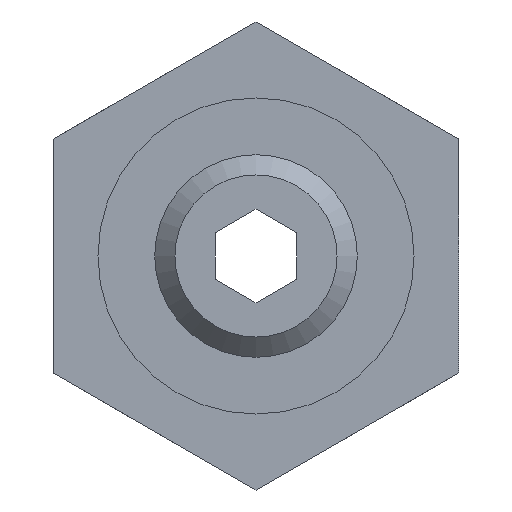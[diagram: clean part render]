
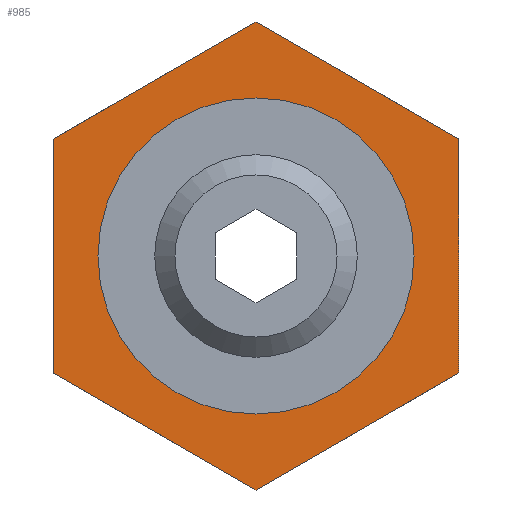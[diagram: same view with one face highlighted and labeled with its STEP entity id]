
A CAD part, front view. The second image highlights one B-rep face of the part: STEP entity #985.
In plain terms, the highlighted planar face has unit normal (0, -1, 0).
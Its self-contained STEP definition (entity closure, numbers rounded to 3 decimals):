
#369=CARTESIAN_POINT('',(-5.,-15.0,-2.887));
#370=VERTEX_POINT('',#369);
#371=CARTESIAN_POINT('',(0.,-15.0,-5.774));
#372=VERTEX_POINT('',#371);
#373=CARTESIAN_POINT('',(-5.,-15.0,-2.887));
#374=DIRECTION('',(0.866,0.0,-0.5));
#375=VECTOR('',#374,5.774);
#376=LINE('',#373,#375);
#377=EDGE_CURVE('',#370,#372,#376,.T.);
#431=CARTESIAN_POINT('',(-5.0,-15.0,2.887));
#432=VERTEX_POINT('',#431);
#433=CARTESIAN_POINT('',(-5.,-15.0,2.887));
#434=DIRECTION('',(0.0,0.0,-1.0));
#435=VECTOR('',#434,5.774);
#436=LINE('',#433,#435);
#437=EDGE_CURVE('',#432,#370,#436,.T.);
#484=CARTESIAN_POINT('',(5.0,-15.0,-2.887));
#485=VERTEX_POINT('',#484);
#486=CARTESIAN_POINT('',(0.0,-15.0,-5.774));
#487=DIRECTION('',(0.866,0.0,0.5));
#488=VECTOR('',#487,5.774);
#489=LINE('',#486,#488);
#490=EDGE_CURVE('',#372,#485,#489,.T.);
#537=CARTESIAN_POINT('',(5.0,-15.0,2.887));
#538=VERTEX_POINT('',#537);
#539=CARTESIAN_POINT('',(5.0,-15.0,-2.887));
#540=DIRECTION('',(0.0,0.0,1.0));
#541=VECTOR('',#540,5.774);
#542=LINE('',#539,#541);
#543=EDGE_CURVE('',#485,#538,#542,.T.);
#590=CARTESIAN_POINT('',(0.,-15.0,5.774));
#591=VERTEX_POINT('',#590);
#592=CARTESIAN_POINT('',(0.,-15.0,5.774));
#593=DIRECTION('',(-0.866,0.0,-0.5));
#594=VECTOR('',#593,5.774);
#595=LINE('',#592,#594);
#596=EDGE_CURVE('',#591,#432,#595,.T.);
#643=CARTESIAN_POINT('',(5.0,-15.0,2.887));
#644=DIRECTION('',(-0.866,0.0,0.5));
#645=VECTOR('',#644,5.774);
#646=LINE('',#643,#645);
#647=EDGE_CURVE('',#538,#591,#646,.T.);
#961=CARTESIAN_POINT('',(5.413,-15.0,0.0));
#962=DIRECTION('',(0.0,-1.0,0.0));
#963=DIRECTION('',(0.0,0.0,-1.0));
#964=AXIS2_PLACEMENT_3D('',#961,#962,#963);
#965=PLANE('',#964);
#966=ORIENTED_EDGE('',*,*,#543,.T.);
#967=ORIENTED_EDGE('',*,*,#647,.T.);
#968=ORIENTED_EDGE('',*,*,#596,.T.);
#969=ORIENTED_EDGE('',*,*,#437,.T.);
#970=ORIENTED_EDGE('',*,*,#377,.T.);
#971=ORIENTED_EDGE('',*,*,#490,.T.);
#972=EDGE_LOOP('',(#966,#967,#968,#969,#970,#971));
#973=FACE_OUTER_BOUND('',#972,.T.);
#974=CARTESIAN_POINT('',(3.9,-15.0,0.0));
#975=VERTEX_POINT('',#974);
#976=CARTESIAN_POINT('',(0.0,-15.0,0.0));
#977=DIRECTION('',(0.0,-1.0,0.0));
#978=DIRECTION('',(1.0,0.0,0.0));
#979=AXIS2_PLACEMENT_3D('',#976,#977,#978);
#980=CIRCLE('',#979,3.9);
#981=EDGE_CURVE('',#975,#975,#980,.T.);
#982=ORIENTED_EDGE('',*,*,#981,.F.);
#983=EDGE_LOOP('',(#982));
#984=FACE_BOUND('',#983,.T.);
#985=ADVANCED_FACE('',(#973,#984),#965,.T.);
